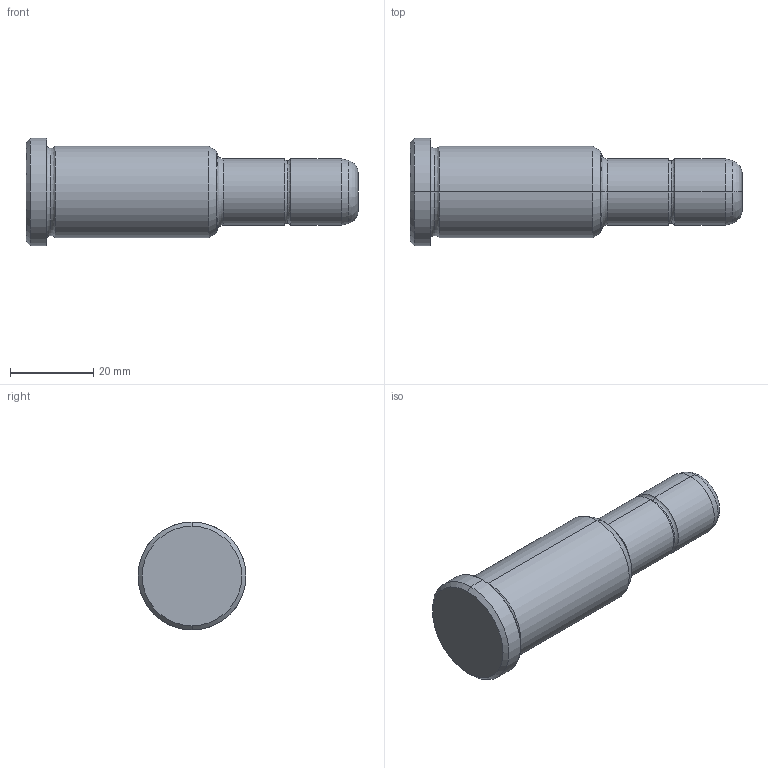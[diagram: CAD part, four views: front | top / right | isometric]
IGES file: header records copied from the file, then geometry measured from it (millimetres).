
Start section: START RECORD GO HERE.
Global section: file name: 351-16X46X80.igs; native system: DASSAULT SYSTEMES CATIA V5 R20 - www.3ds.com; preprocessor: CATIA Version 5 Release 20 ; author: Utente; organization: NB04-ASUS; date: 20210818.132500; units: millimetre
Bounding box: 80 x 26 x 26 mm (x, y, z)
Surface area: 5816.2 mm2 (no closed solid volume)
Topology: 0 solids, 0 shells, 30 faces, 172 edges, 172 vertices
Faces by surface type: revolution 26, plane 4
